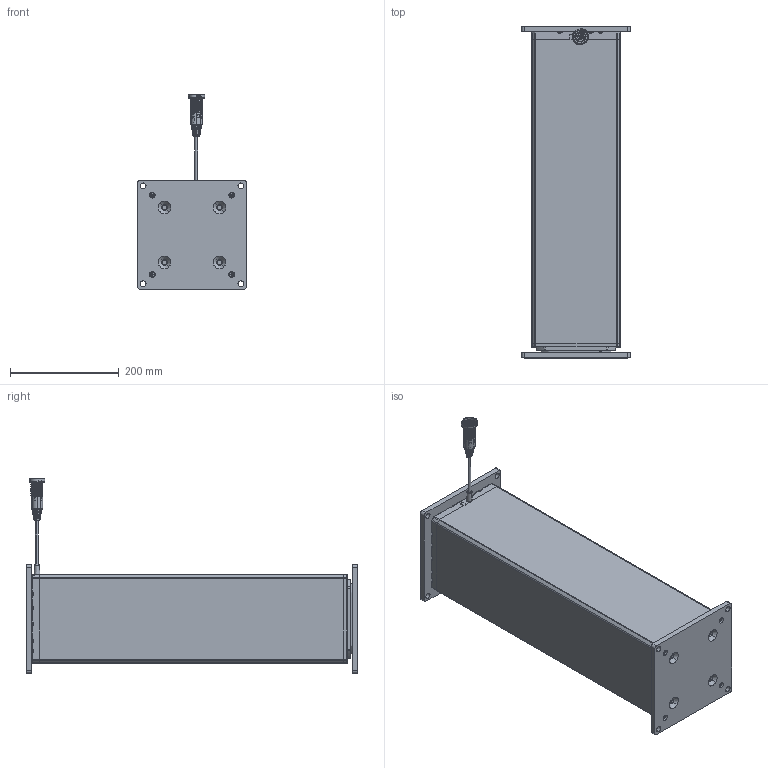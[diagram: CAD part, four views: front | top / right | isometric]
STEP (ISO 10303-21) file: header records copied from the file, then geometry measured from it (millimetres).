
FILE_DESCRIPTION((''),'2;1');
FILE_NAME('LC3-RETRACTED-610MM_ASM','2023-10-06T07:28:53',('jak'),(''),'CREO PARAMETRIC BY PTC INC, 2022024','CREO PARAMETRIC BY PTC INC, 2022024','');
FILE_SCHEMA(('AUTOMOTIVE_DESIGN { 1 0 10303 214 1 1 1 1 }'));
Products named in the file (7): LC3-RETRACTED-610MM_1_1; LC3-RETRACTED-610MM_1_2; LC3-RETRACTED-610MM_1_3; LC3-RETRACTED-610MM_1_4; LC3-RETRACTED-610MM_1_5; LC3-RETRACTED-610MM_1_ASM; LC3-RETRACTED-610MM_ASM
Assembly tree (6 placements, depth 3):
  LC3-RETRACTED-610MM_ASM
    LC3-RETRACTED-610MM_1_ASM
      LC3-RETRACTED-610MM_1_1
      LC3-RETRACTED-610MM_1_2
      LC3-RETRACTED-610MM_1_3
      LC3-RETRACTED-610MM_1_4
      LC3-RETRACTED-610MM_1_5
Bounding box: 200 x 610 x 357.77 mm (x, y, z)
Volume: 16081086.8 mm3; surface area: 667848.5 mm2
Topology: 5 solids, 45 shells, 3482 faces, 9095 edges, 5691 vertices
Faces by surface type: cylinder 1189, plane 1093, torus 635, cone 328, bspline 171, sphere 60, extrusion 6
Entity records: 142917 total; most frequent: CARTESIAN_POINT 33256, DIRECTION 18740, ORIENTED_EDGE 18038, EDGE_CURVE 9019, AXIS2_PLACEMENT_3D 7433, VERTEX_POINT 5691, CIRCLE 4110, VECTOR 3874
